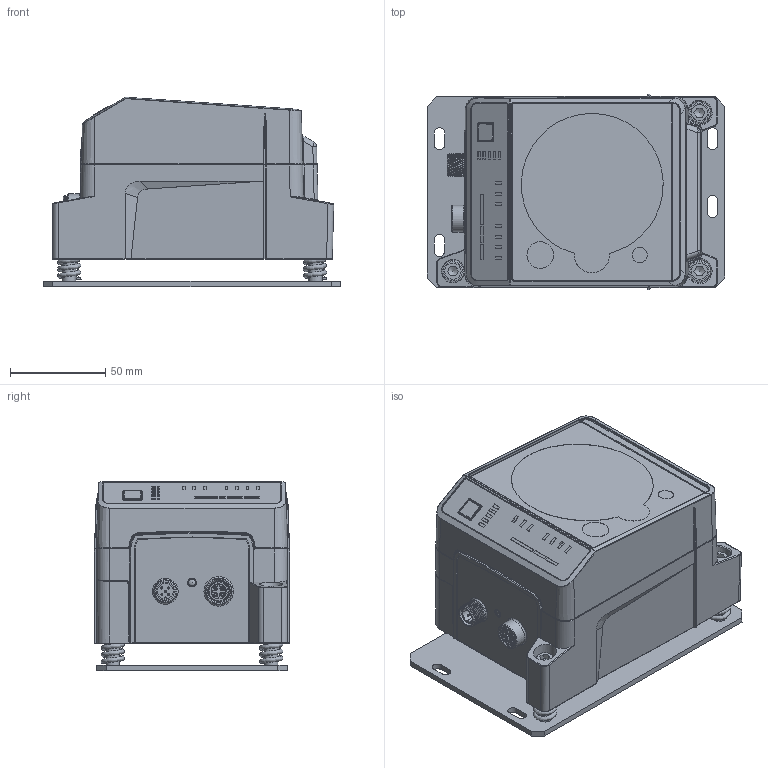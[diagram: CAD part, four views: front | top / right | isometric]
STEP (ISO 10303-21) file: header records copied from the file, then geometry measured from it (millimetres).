
FILE_DESCRIPTION(/* description */ (''),/* implementation_level */ '2;1');
FILE_NAME(/* name */ '3DCAD_DDLS500.stp',/* time_stamp */ '2014-06-17T15:02:51+02:00',/* author */ (''),/* organization */ (''),/* preprocessor_version */ 'ST-DEVELOPER v15',/* originating_system */ 'SIEMENS PLM Software NX 8.5',/* authorisation */ '');
FILE_SCHEMA (('AUTOMOTIVE_DESIGN { 1 0 10303 214 3 1 1 1 }'));
Products named in the file (1): 005165_00.0
Bounding box: 156 x 102.2 x 99.48 mm (x, y, z)
Volume: 443015.7 mm3; surface area: 162507.7 mm2
Topology: 3 solids, 8 shells, 2478 faces, 6477 edges, 4058 vertices
Faces by surface type: plane 1225, cylinder 587, bspline 281, revolution 216, cone 101, torus 49, sphere 14, extrusion 5
Full cylindrical faces by diameter (mm): 1 x1, 1.4 x1, 2 x1, 3.432 x1, 3.5 x1, 3.6 x1, 4 x3, 4.1 x3, 4.3 x1, 5 x7, 5.3 x1, 5.5 x2, 7 x3, 7.11 x3, 8 x2, 8.5 x4, 9.7 x1, 10 x4, 13.5 x1, 14 x2, 15.5 x1
Entity records: 101141 total; most frequent: CARTESIAN_POINT 31444, ORIENTED_EDGE 12520, DIRECTION 12088, EDGE_CURVE 6260, AXIS2_PLACEMENT_3D 4191, VERTEX_POINT 3981, VECTOR 3490, LINE 3485
